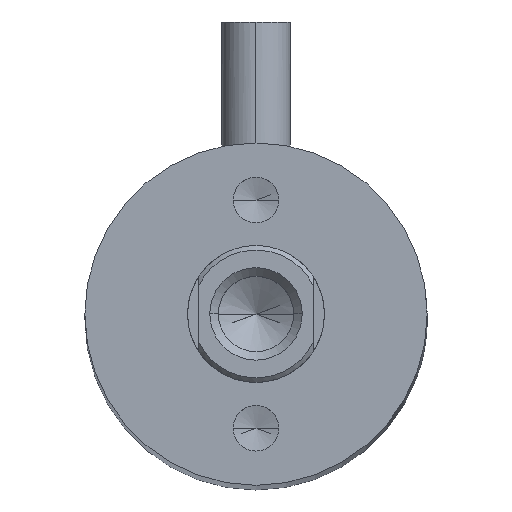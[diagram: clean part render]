
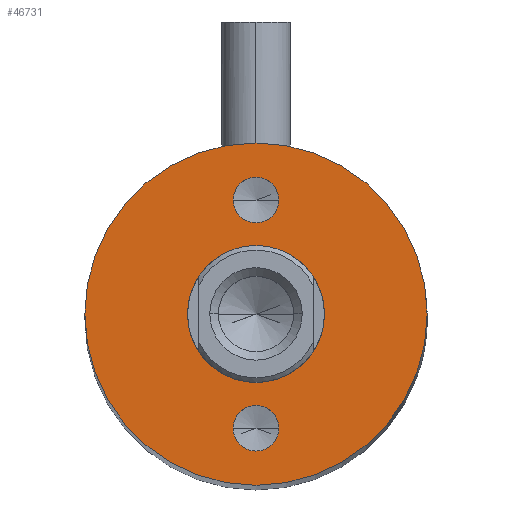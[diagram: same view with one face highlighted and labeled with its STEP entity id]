
A CAD part, top view. The second image highlights one B-rep face of the part: STEP entity #46731.
In plain terms, the highlighted planar face has unit normal (0, 0, 1).
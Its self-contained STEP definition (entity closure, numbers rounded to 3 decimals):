
#299 = CARTESIAN_POINT ( 'NONE',  ( -3., 0., 118.6 ) ) ;
#836 = FACE_BOUND ( 'NONE', #5812, .T. ) ;
#1708 = AXIS2_PLACEMENT_3D ( 'NONE', #2715, #34080, #6516 ) ;
#2715 = CARTESIAN_POINT ( 'NONE',  ( 0., 0., 118.6 ) ) ;
#3151 = ORIENTED_EDGE ( 'NONE', *, *, #40015, .F. ) ;
#3299 = CARTESIAN_POINT ( 'NONE',  ( 0., 5., 118.6 ) ) ;
#3739 = DIRECTION ( 'NONE',  ( 0., 0., 1. ) ) ;
#4232 = AXIS2_PLACEMENT_3D ( 'NONE', #9272, #40250, #5153 ) ;
#4606 = AXIS2_PLACEMENT_3D ( 'NONE', #42537, #22275, #38275 ) ;
#4849 = CARTESIAN_POINT ( 'NONE',  ( 0., 0., 118.6 ) ) ;
#4852 = AXIS2_PLACEMENT_3D ( 'NONE', #3299, #14468, #7093 ) ;
#4983 = ORIENTED_EDGE ( 'NONE', *, *, #22166, .F. ) ;
#4992 = EDGE_CURVE ( 'NONE', #27050, #31887, #28068, .T. ) ;
#5153 = DIRECTION ( 'NONE',  ( 1., 0., 0. ) ) ;
#5208 = CARTESIAN_POINT ( 'NONE',  ( 1., 5., 118.6 ) ) ;
#5812 = EDGE_LOOP ( 'NONE', ( #8097, #3151 ) ) ;
#6516 = DIRECTION ( 'NONE',  ( 1., 0., 0. ) ) ;
#7093 = DIRECTION ( 'NONE',  ( 1., 0., 0. ) ) ;
#7699 = CARTESIAN_POINT ( 'NONE',  ( 0., -5., 118.6 ) ) ;
#8097 = ORIENTED_EDGE ( 'NONE', *, *, #49090, .F. ) ;
#9269 = VERTEX_POINT ( 'NONE', #299 ) ;
#9272 = CARTESIAN_POINT ( 'NONE',  ( 0., 0., 118.6 ) ) ;
#9955 = ORIENTED_EDGE ( 'NONE', *, *, #36715, .T. ) ;
#10264 = DIRECTION ( 'NONE',  ( 0., 0., 1. ) ) ;
#10492 = AXIS2_PLACEMENT_3D ( 'NONE', #7699, #3739, #37851 ) ;
#11061 = CARTESIAN_POINT ( 'NONE',  ( -7.5, 0., 118.6 ) ) ;
#11154 = CARTESIAN_POINT ( 'NONE',  ( 7.5, 0., 118.6 ) ) ;
#11615 = VERTEX_POINT ( 'NONE', #11154 ) ;
#13002 = CARTESIAN_POINT ( 'NONE',  ( 0., 5., 118.6 ) ) ;
#14468 = DIRECTION ( 'NONE',  ( 0., 0., 1. ) ) ;
#14945 = CARTESIAN_POINT ( 'NONE',  ( 0., -5., 118.6 ) ) ;
#16176 = AXIS2_PLACEMENT_3D ( 'NONE', #4849, #24299, #20036 ) ;
#16486 = EDGE_LOOP ( 'NONE', ( #46202, #40273 ) ) ;
#16654 = VERTEX_POINT ( 'NONE', #23600 ) ;
#19040 = VERTEX_POINT ( 'NONE', #5208 ) ;
#20036 = DIRECTION ( 'NONE',  ( 1., 0., 0. ) ) ;
#20121 = AXIS2_PLACEMENT_3D ( 'NONE', #37491, #10264, #37826 ) ;
#20363 = CARTESIAN_POINT ( 'NONE',  ( 3., 0., 118.6 ) ) ;
#22126 = EDGE_LOOP ( 'NONE', ( #34159, #9955 ) ) ;
#22166 = EDGE_CURVE ( 'NONE', #9269, #25930, #45783, .T. ) ;
#22275 = DIRECTION ( 'NONE',  ( 0., 0., 1. ) ) ;
#22814 = CIRCLE ( 'NONE', #4852, 1. ) ;
#23600 = CARTESIAN_POINT ( 'NONE',  ( -1., 5., 118.6 ) ) ;
#24299 = DIRECTION ( 'NONE',  ( 0., 0., 1. ) ) ;
#25096 = DIRECTION ( 'NONE',  ( 1., 0., 0. ) ) ;
#25170 = CIRCLE ( 'NONE', #4606, 3. ) ;
#25930 = VERTEX_POINT ( 'NONE', #20363 ) ;
#27036 = DIRECTION ( 'NONE',  ( 1., 0., 0. ) ) ;
#27050 = VERTEX_POINT ( 'NONE', #38617 ) ;
#27450 = CARTESIAN_POINT ( 'NONE',  ( 1., -5., 118.6 ) ) ;
#27958 = EDGE_CURVE ( 'NONE', #42455, #11615, #30878, .T. ) ;
#28068 = CIRCLE ( 'NONE', #49017, 1. ) ;
#30878 = CIRCLE ( 'NONE', #20121, 7.5 ) ;
#31887 = VERTEX_POINT ( 'NONE', #27450 ) ;
#32121 = FACE_BOUND ( 'NONE', #16486, .T. ) ;
#34080 = DIRECTION ( 'NONE',  ( 0., 0., 1. ) ) ;
#34159 = ORIENTED_EDGE ( 'NONE', *, *, #27958, .T. ) ;
#34559 = EDGE_CURVE ( 'NONE', #31887, #27050, #45595, .T. ) ;
#35816 = FACE_BOUND ( 'NONE', #50208, .T. ) ;
#36192 = PLANE ( 'NONE',  #16176 ) ;
#36715 = EDGE_CURVE ( 'NONE', #11615, #42455, #41187, .T. ) ;
#37491 = CARTESIAN_POINT ( 'NONE',  ( 0., 0., 118.6 ) ) ;
#37826 = DIRECTION ( 'NONE',  ( 1., 0., 0. ) ) ;
#37851 = DIRECTION ( 'NONE',  ( 1., 0., 0. ) ) ;
#38275 = DIRECTION ( 'NONE',  ( 1., 0., 0. ) ) ;
#38601 = EDGE_CURVE ( 'NONE', #25930, #9269, #25170, .T. ) ;
#38617 = CARTESIAN_POINT ( 'NONE',  ( -1., -5., 118.6 ) ) ;
#39903 = CIRCLE ( 'NONE', #48694, 1. ) ;
#40015 = EDGE_CURVE ( 'NONE', #16654, #19040, #39903, .T. ) ;
#40250 = DIRECTION ( 'NONE',  ( 0., 0., 1. ) ) ;
#40273 = ORIENTED_EDGE ( 'NONE', *, *, #4992, .F. ) ;
#41187 = CIRCLE ( 'NONE', #4232, 7.5 ) ;
#42317 = DIRECTION ( 'NONE',  ( 0., 0., 1. ) ) ;
#42455 = VERTEX_POINT ( 'NONE', #11061 ) ;
#42537 = CARTESIAN_POINT ( 'NONE',  ( 0., 0., 118.6 ) ) ;
#43478 = ORIENTED_EDGE ( 'NONE', *, *, #38601, .F. ) ;
#45595 = CIRCLE ( 'NONE', #10492, 1. ) ;
#45783 = CIRCLE ( 'NONE', #1708, 3. ) ;
#46202 = ORIENTED_EDGE ( 'NONE', *, *, #34559, .F. ) ;
#46731 = ADVANCED_FACE ( 'NONE', ( #32121, #836, #35816, #46884 ), #36192, .T. ) ;
#46884 = FACE_OUTER_BOUND ( 'NONE', #22126, .T. ) ;
#48391 = DIRECTION ( 'NONE',  ( 0., 0., 1. ) ) ;
#48694 = AXIS2_PLACEMENT_3D ( 'NONE', #13002, #48391, #25096 ) ;
#49017 = AXIS2_PLACEMENT_3D ( 'NONE', #14945, #42317, #27036 ) ;
#49090 = EDGE_CURVE ( 'NONE', #19040, #16654, #22814, .T. ) ;
#50208 = EDGE_LOOP ( 'NONE', ( #4983, #43478 ) ) ;
